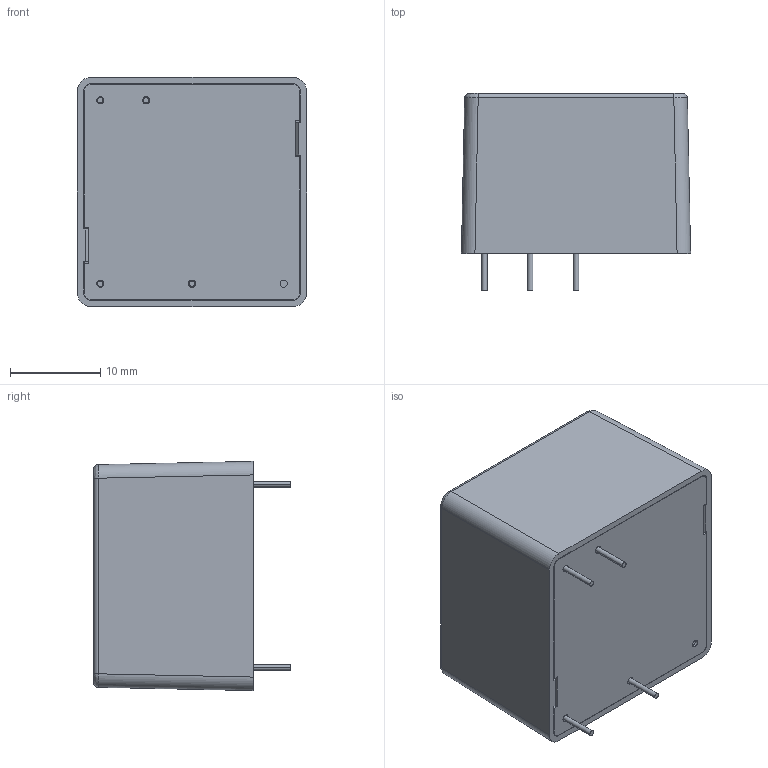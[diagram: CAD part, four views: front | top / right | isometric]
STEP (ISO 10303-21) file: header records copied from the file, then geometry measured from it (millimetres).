
FILE_DESCRIPTION (( 'STEP AP214' ), '1' );
FILE_NAME ('VTX-214-005-6xx.STEP', '2022-03-02T14:08:07', ( '' ), ( '' ), 'SwSTEP 2.0', 'SolidWorks 2020', '' );
FILE_SCHEMA (( 'AUTOMOTIVE_DESIGN' ));
Length unit declared in the file: millimetre
Products named in the file (10): Pin 4; VTX-214-005-6xx Sub Assembly; Pin 3; Pin 2; VTX-214-005-6xx; VTX-214-005-6xx Sub Assembly 2; Pin Assembly; Pin 1; VTX-214-005-6xx Bottom Housing; VTX-214-005-6xx Top Housing
Assembly tree (9 placements, depth 5):
  VTX-214-005-6xx
    VTX-214-005-6xx Sub Assembly
      VTX-214-005-6xx Sub Assembly 2
        VTX-214-005-6xx Top Housing
        VTX-214-005-6xx Bottom Housing
        Pin Assembly
          Pin 1
          Pin 2
          Pin 3
          Pin 4
Bounding box: 25.4 x 21.8 x 25.4 mm (x, y, z)
Volume: 2020.1 mm3; surface area: 5980.1 mm2
Topology: 6 solids, 6 shells, 187 faces, 463 edges, 300 vertices
Faces by surface type: plane 109, cylinder 61, cone 10, bspline 7
Entity records: 7806 total; most frequent: CARTESIAN_POINT 1369, DIRECTION 939, ORIENTED_EDGE 926, EDGE_CURVE 463, LINE 319, VECTOR 319, AXIS2_PLACEMENT_3D 310, VERTEX_POINT 300
